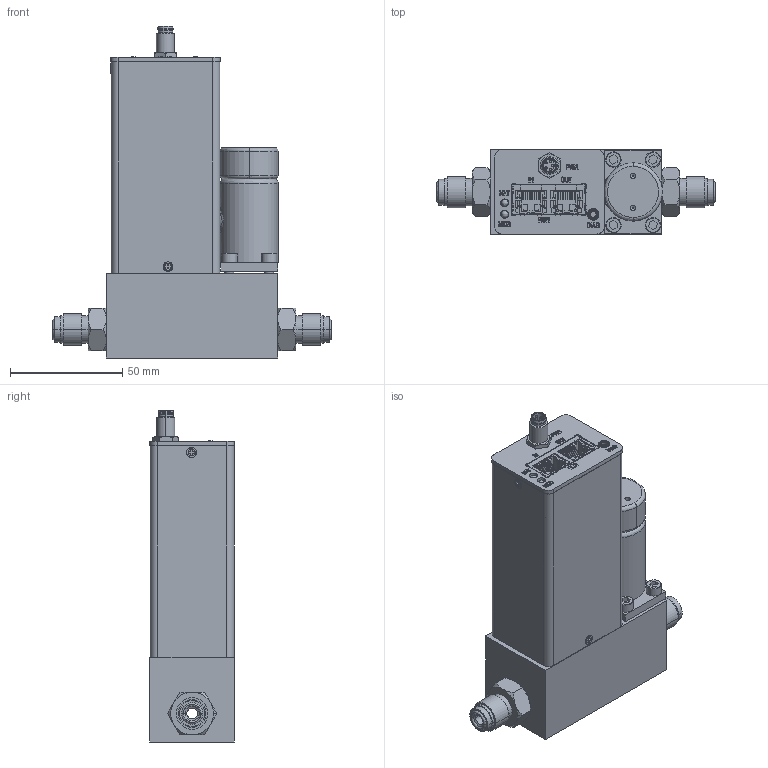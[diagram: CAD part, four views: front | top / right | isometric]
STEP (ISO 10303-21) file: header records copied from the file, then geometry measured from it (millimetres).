
FILE_DESCRIPTION (( 'STEP AP214' ), '1' );
FILE_NAME ('SLA5850-E-1E-1-A-REVB.STEP', '2023-06-29T17:42:03', ( '' ), ( '' ), 'SwSTEP 2.0', 'SolidWorks 2020', '' );
FILE_SCHEMA (( 'AUTOMOTIVE_DESIGN' ));
Length unit declared in the file: inch
Products named in the file (1): SLA5850-E-1E-1-A-REVB
Bounding box: 124.1 x 37.86 x 147.97 mm (x, y, z)
Surface area: 89870.4 mm2 (no closed solid volume)
Topology: 0 solids, 99 shells, 4013 faces, 10541 edges, 6826 vertices
Faces by surface type: plane 2935, cylinder 796, bspline 161, cone 111, torus 6, sphere 4
Entity records: 179696 total; most frequent: CARTESIAN_POINT 27809, ORIENTED_EDGE 21056, DIRECTION 19812, EDGE_CURVE 10533, VECTOR 8274, LINE 8274, VERTEX_POINT 6826, AXIS2_PLACEMENT_3D 5769
